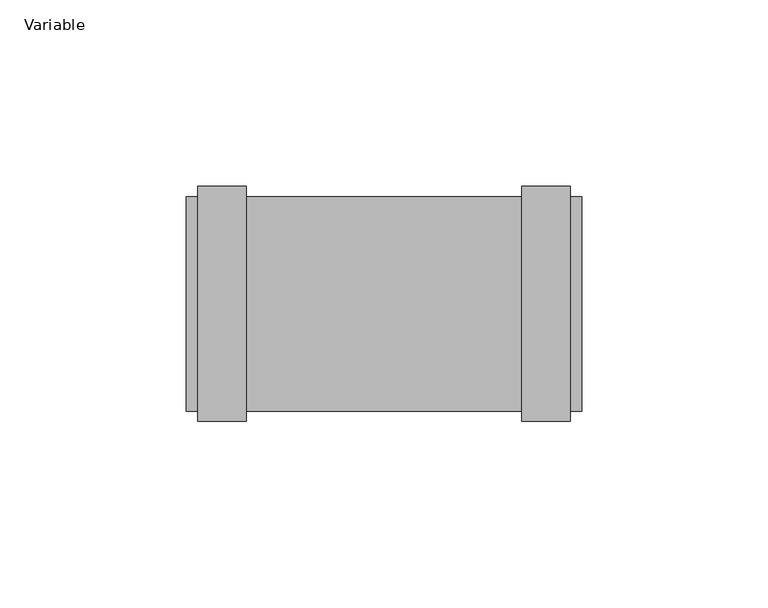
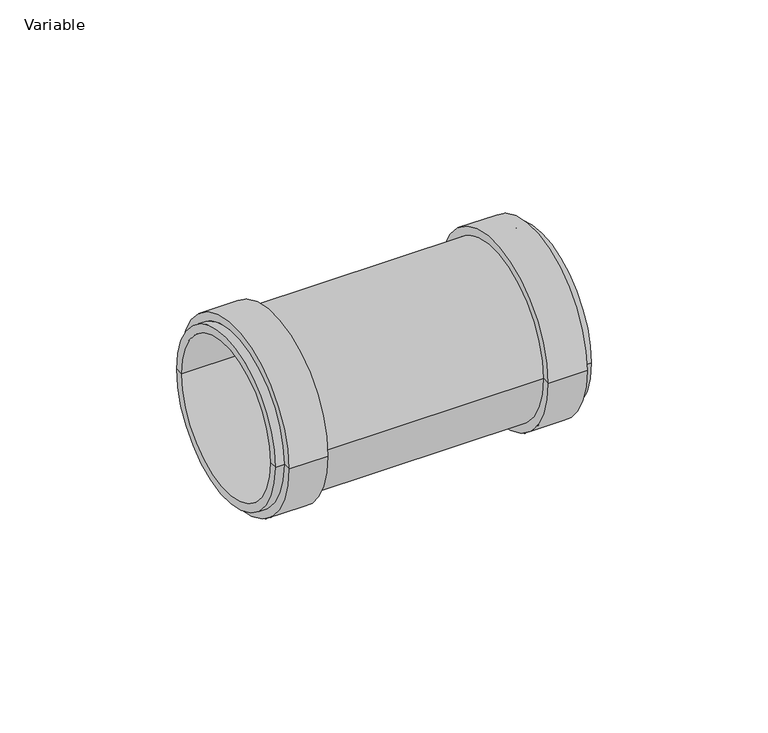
"""IFC4 building model written with IfcOpenShell, lengths in millimetres: pipe fitting geometry, AliaxisFR_Friaphon_SimpleCoupling_FR : Variable."""

from ifc_helpers import new_model, si_unit, frame, origin, place, context, project, spatial, polyline, circle_curve, source, transform, mapped, element, save
from ifc_brep_helpers import plane_surface, cylinder_surface, revolved_surface, advanced_brep


def variable_777e3a11(model_context):
    return source(origin(), model_context, "Body", "AdvancedBrep", [
        advanced_brep(
        [(54.5, -28.75, 0.0), (54.5, 28.75, 0.0), (54.5, 26.0, 0.0), (54.5, -26.0, 0.0), (51.5, -28.75, 0.0), (51.5, 28.75, 0.0), (51.5, -31.5, 0.0), (51.5, 31.5, 0.0), (38.5, -31.5, 0.0), (38.5, 31.5, 0.0), (38.5, -28.75, 0.0), (38.5, 28.75, 0.0), (-35.5, -28.75, 0.0), (-35.5, 28.75, 0.0), (-35.5, -31.5, 0.0), (-35.5, 31.5, 0.0), (-48.5, -31.5, 0.0), (-48.5, 31.5, 0.0), (-48.5, -28.75, 0.0), (-48.5, 28.75, 0.0), (-51.5, -28.75, 0.0), (-51.5, 28.75, 0.0), (-51.5, -26.0, 0.0), (-51.5, 26.0, 0.0)],
        [
            (0, 1, circle_curve(frame((54.5, 0.0, 0.0), z_axis=(1.0, 0.0, 0.0), x_axis=(0.0, 1.0, 0.0)), 28.75)),
            (1, 2),
            (2, 3, circle_curve(frame((54.5, 0.0, 0.0), z_axis=(-1.0, 0.0, 0.0), x_axis=(0.0, 1.0, 0.0)), 26.0)),
            (3, 0),
            (1, 0, circle_curve(frame((54.5, 0.0, 0.0), z_axis=(1.0, 0.0, 0.0), x_axis=(0.0, 1.0, 0.0)), 28.75)),
            (3, 2, circle_curve(frame((54.5, 0.0, 0.0), z_axis=(-1.0, 0.0, 0.0), x_axis=(0.0, 1.0, 0.0)), 26.0)),
            (4, 5, circle_curve(frame((51.5, 0.0, 0.0), z_axis=(1.0, 0.0, 0.0), x_axis=(0.0, 1.0, 0.0)), 28.75)),
            (5, 1),
            (0, 4),
            (5, 4, circle_curve(frame((51.5, 0.0, 0.0), z_axis=(1.0, 0.0, 0.0), x_axis=(0.0, 1.0, 0.0)), 28.75)),
            (6, 7, circle_curve(frame((51.5, 0.0, 0.0), z_axis=(1.0, 0.0, 0.0), x_axis=(0.0, 1.0, 0.0)), 31.5)),
            (7, 5),
            (4, 6),
            (7, 6, circle_curve(frame((51.5, 0.0, 0.0), z_axis=(1.0, 0.0, 0.0), x_axis=(0.0, 1.0, 0.0)), 31.5)),
            (8, 9, circle_curve(frame((38.5, 0.0, 0.0), z_axis=(1.0, 0.0, 0.0), x_axis=(0.0, 1.0, 0.0)), 31.5)),
            (9, 7),
            (6, 8),
            (9, 8, circle_curve(frame((38.5, 0.0, 0.0), z_axis=(1.0, 0.0, 0.0), x_axis=(0.0, 1.0, 0.0)), 31.5)),
            (10, 11, circle_curve(frame((38.5, 0.0, 0.0), z_axis=(1.0, 0.0, 0.0), x_axis=(0.0, 1.0, 0.0)), 28.75)),
            (11, 9),
            (8, 10),
            (11, 10, circle_curve(frame((38.5, 0.0, 0.0), z_axis=(1.0, 0.0, 0.0), x_axis=(0.0, 1.0, 0.0)), 28.75)),
            (12, 13, circle_curve(frame((-35.5, 0.0, 0.0), z_axis=(1.0, 0.0, 0.0), x_axis=(0.0, 1.0, 0.0)), 28.75)),
            (13, 11),
            (10, 12),
            (13, 12, circle_curve(frame((-35.5, 0.0, 0.0), z_axis=(1.0, 0.0, 0.0), x_axis=(0.0, 1.0, 0.0)), 28.75)),
            (14, 15, circle_curve(frame((-35.5, 0.0, 0.0), z_axis=(1.0, 0.0, 0.0), x_axis=(0.0, 1.0, 0.0)), 31.5)),
            (15, 13),
            (12, 14),
            (15, 14, circle_curve(frame((-35.5, 0.0, 0.0), z_axis=(1.0, 0.0, 0.0), x_axis=(0.0, 1.0, 0.0)), 31.5)),
            (16, 17, circle_curve(frame((-48.5, 0.0, 0.0), z_axis=(1.0, 0.0, 0.0), x_axis=(0.0, 1.0, 0.0)), 31.5)),
            (17, 15),
            (14, 16),
            (17, 16, circle_curve(frame((-48.5, 0.0, 0.0), z_axis=(1.0, 0.0, 0.0), x_axis=(0.0, 1.0, 0.0)), 31.5)),
            (18, 19, circle_curve(frame((-48.5, 0.0, 0.0), z_axis=(1.0, 0.0, 0.0), x_axis=(0.0, 1.0, 0.0)), 28.75)),
            (19, 17),
            (16, 18),
            (19, 18, circle_curve(frame((-48.5, 0.0, 0.0), z_axis=(1.0, 0.0, 0.0), x_axis=(0.0, 1.0, 0.0)), 28.75)),
            (20, 21, circle_curve(frame((-51.5, 0.0, 0.0), z_axis=(1.0, 0.0, 0.0), x_axis=(0.0, 1.0, 0.0)), 28.75)),
            (21, 19),
            (18, 20),
            (21, 20, circle_curve(frame((-51.5, 0.0, 0.0), z_axis=(1.0, 0.0, 0.0), x_axis=(0.0, 1.0, 0.0)), 28.75)),
            (22, 23, circle_curve(frame((-51.5, 0.0, 0.0), z_axis=(1.0, 0.0, 0.0), x_axis=(0.0, 1.0, 0.0)), 26.0)),
            (23, 21),
            (20, 22),
            (23, 22, circle_curve(frame((-51.5, 0.0, 0.0), z_axis=(1.0, 0.0, 0.0), x_axis=(0.0, 1.0, 0.0)), 26.0)),
            (2, 23),
            (22, 3),
        ],
        [
            plane_surface(frame((54.5, 0.0, 0.0), z_axis=(1.0, 0.0, 0.0), x_axis=(0.0, 1.0, 0.0))),
            cylinder_surface(frame((2002.5, 0.0, 0.0), z_axis=(-1.0, 0.0, 0.0), x_axis=(0.0, 1.0, 0.0)), 28.75),
            plane_surface(frame((51.5, 0.0, 0.0), z_axis=(1.0, 0.0, 0.0), x_axis=(0.0, 1.0, 0.0))),
            cylinder_surface(frame((2002.5, 0.0, 0.0), z_axis=(-1.0, 0.0, 0.0), x_axis=(0.0, 1.0, 0.0)), 31.5),
            plane_surface(frame((38.5, 0.0, 0.0), z_axis=(-1.0, 0.0, 0.0), x_axis=(0.0, 1.0, 0.0))),
            plane_surface(frame((-35.5, 0.0, 0.0), z_axis=(1.0, 0.0, 0.0), x_axis=(0.0, 1.0, 0.0))),
            plane_surface(frame((-48.5, 0.0, 0.0), z_axis=(-1.0, 0.0, 0.0), x_axis=(0.0, 1.0, 0.0))),
            plane_surface(frame((-51.5, 0.0, 0.0), z_axis=(-1.0, 0.0, 0.0), x_axis=(0.0, 1.0, 0.0))),
            revolved_surface(polyline([(-51.5, 26.0, 0.0), (54.5, 26.0, 0.0)]), (2002.5, 0.0, 0.0), (-1.0, 0.0, 0.0)),
        ],
        [
            (0, [[1, 2, 3, 4]]),
            (0, [[5, -4, 6, -2]]),
            (1, [[7, 8, -1, 9]]),
            (1, [[10, -9, -5, -8]]),
            (2, [[11, 12, -7, 13]]),
            (2, [[14, -13, -10, -12]]),
            (3, [[15, 16, -11, 17]]),
            (3, [[18, -17, -14, -16]]),
            (4, [[19, 20, -15, 21]]),
            (4, [[22, -21, -18, -20]]),
            (1, [[23, 24, -19, 25]]),
            (1, [[26, -25, -22, -24]]),
            (5, [[27, 28, -23, 29]]),
            (5, [[30, -29, -26, -28]]),
            (3, [[31, 32, -27, 33]]),
            (3, [[34, -33, -30, -32]]),
            (6, [[35, 36, -31, 37]]),
            (6, [[38, -37, -34, -36]]),
            (1, [[39, 40, -35, 41]]),
            (1, [[42, -41, -38, -40]]),
            (7, [[43, 44, -39, 45]]),
            (7, [[46, -45, -42, -44]]),
            (8, [[-3, 47, -43, 48]]),
            (8, [[-6, -48, -46, -47]]),
        ],
    ),
    ])


if __name__ == "__main__":
    model = new_model("IFC4")
    model_context = context("Model", 3, world=origin())
    ifc_project = project(units=[si_unit("LENGTHUNIT", "METRE", prefix="MILLI")], contexts=[model_context])
    site = spatial("IfcSite", under=ifc_project)
    building = spatial("IfcBuilding", under=site)
    placement = place(None, origin())
    variable_shape = variable_777e3a11(model_context)
    element("IfcPipeFitting", 1, ObjectType="AliaxisFR_Friaphon_SimpleCoupling_FR : Variable", at=placement, inside=building, context=model_context, shape_type="MappedRepresentation", body=[
        mapped(variable_shape, transform((0.0, 0.0, 0.0), x_axis=(1.0, 0.0, 0.0), y_axis=(0.0, 1.0, 0.0), z_axis=(0.0, 0.0, 1.0))),
    ])
    save(model, "model.ifc")
